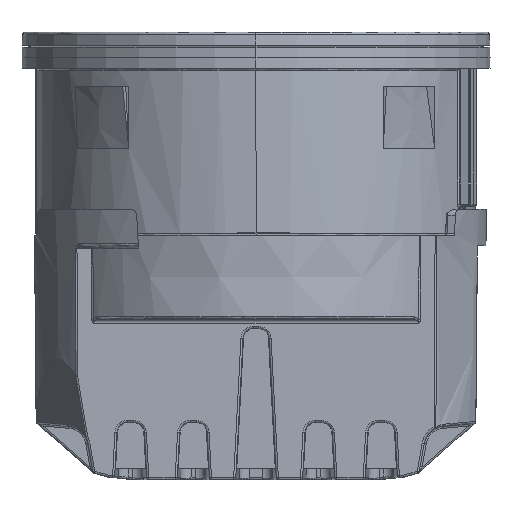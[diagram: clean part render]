
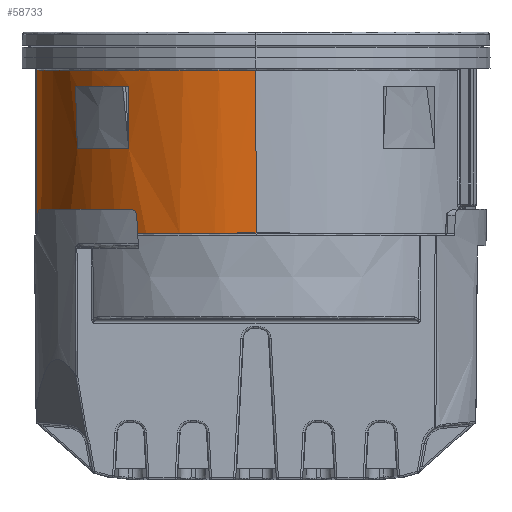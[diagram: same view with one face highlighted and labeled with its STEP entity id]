
A CAD part, left-side view. The second image highlights one B-rep face of the part: STEP entity #58733.
In plain terms, the highlighted cylindrical face has radius 21 mm (diameter 42 mm), a partial arc.
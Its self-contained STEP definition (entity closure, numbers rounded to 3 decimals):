
#384 = VERTEX_POINT ( 'NONE', #40165 ) ;
#591 = LINE ( 'NONE', #16662, #31578 ) ;
#1465 = CARTESIAN_POINT ( 'NONE',  ( -20.627, 3.942, 23.638 ) ) ;
#1895 = DIRECTION ( 'NONE',  ( 0., 0., -1. ) ) ;
#2233 = DIRECTION ( 'NONE',  ( 0., 0., -1. ) ) ;
#3307 = EDGE_CURVE ( 'NONE', #28913, #55764, #25191, .T. ) ;
#3571 = CARTESIAN_POINT ( 'NONE',  ( -13.13, 16.431, 37.684 ) ) ;
#3758 = VERTEX_POINT ( 'NONE', #52821 ) ;
#3960 = EDGE_LOOP ( 'NONE', ( #49822, #58065, #43174, #47109, #60432, #19689, #9753 ) ) ;
#4707 = ORIENTED_EDGE ( 'NONE', *, *, #24967, .T. ) ;
#5054 = DIRECTION ( 'NONE',  ( 0., 0., 1. ) ) ;
#6030 = EDGE_CURVE ( 'NONE', #384, #52624, #56663, .T. ) ;
#6274 = CARTESIAN_POINT ( 'NONE',  ( -20.627, 3.942, 23.61 ) ) ;
#6540 = CARTESIAN_POINT ( 'NONE',  ( -21., 0., 23.644 ) ) ;
#6813 = CARTESIAN_POINT ( 'NONE',  ( -17.107, 12.18, 39.4 ) ) ;
#8393 = CARTESIAN_POINT ( 'NONE',  ( -20.796, 2.922, 23.64 ) ) ;
#8655 = VERTEX_POINT ( 'NONE', #22903 ) ;
#8929 = CARTESIAN_POINT ( 'NONE',  ( 0., 0., 23.6 ) ) ;
#9409 = CARTESIAN_POINT ( 'NONE',  ( -16.41, 13.116, 37.685 ) ) ;
#9753 = ORIENTED_EDGE ( 'NONE', *, *, #6030, .T. ) ;
#10593 = AXIS2_PLACEMENT_3D ( 'NONE', #61631, #56179, #67478 ) ;
#10594 = EDGE_CURVE ( 'NONE', #17298, #3758, #61430, .T. ) ;
#12020 = CARTESIAN_POINT ( 'NONE',  ( -21., 0.978, 23.643 ) ) ;
#12487 = LINE ( 'NONE', #6274, #55553 ) ;
#12708 = CARTESIAN_POINT ( 'NONE',  ( -21., 0., 39.2 ) ) ;
#13667 = CIRCLE ( 'NONE', #63600, 21. ) ;
#13820 = CARTESIAN_POINT ( 'NONE',  ( -16.768, 12.656, 37.685 ) ) ;
#14178 = CARTESIAN_POINT ( 'NONE',  ( -15.657, 14.007, 37.685 ) ) ;
#14721 = EDGE_CURVE ( 'NONE', #21341, #42015, #63700, .T. ) ;
#15453 = CARTESIAN_POINT ( 'NONE',  ( -17.107, 12.18, 31.7 ) ) ;
#15656 = CYLINDRICAL_SURFACE ( 'NONE', #61401, 21. ) ;
#16662 = CARTESIAN_POINT ( 'NONE',  ( -12.18, 17.107, 23.6 ) ) ;
#17063 = CARTESIAN_POINT ( 'NONE',  ( -20.796, 2.922, 23.64 ) ) ;
#17298 = VERTEX_POINT ( 'NONE', #20879 ) ;
#17513 = CARTESIAN_POINT ( 'NONE',  ( -17.107, 12.18, 31.7 ) ) ;
#18355 = CARTESIAN_POINT ( 'NONE',  ( 6.054, 20.108, 39.2 ) ) ;
#18360 = VECTOR ( 'NONE', #2233, 1000. ) ;
#19081 = B_SPLINE_CURVE_WITH_KNOTS ( 'NONE', 3,
 ( #17513, #39680, #61839, #29117 ),
 .UNSPECIFIED., .F., .F.,
 ( 4, 4 ),
 ( 0., 1. ),
 .UNSPECIFIED. ) ;
#19673 = FACE_BOUND ( 'NONE', #37151, .T. ) ;
#19689 = ORIENTED_EDGE ( 'NONE', *, *, #23367, .F. ) ;
#19983 = CARTESIAN_POINT ( 'NONE',  ( -12.18, 17.107, 37.686 ) ) ;
#20879 = CARTESIAN_POINT ( 'NONE',  ( -17.107, 12.18, 37.685 ) ) ;
#21341 = VERTEX_POINT ( 'NONE', #62278 ) ;
#22237 = ORIENTED_EDGE ( 'NONE', *, *, #10594, .F. ) ;
#22903 = CARTESIAN_POINT ( 'NONE',  ( -20.627, 3.942, 23.6 ) ) ;
#22965 = CARTESIAN_POINT ( 'NONE',  ( -20.796, 2.922, 23.64 ) ) ;
#23367 = EDGE_CURVE ( 'NONE', #384, #8655, #12487, .T. ) ;
#23582 = LINE ( 'NONE', #6813, #25536 ) ;
#23852 = CARTESIAN_POINT ( 'NONE',  ( 6.054, 20.108, 23.6 ) ) ;
#24967 = EDGE_CURVE ( 'NONE', #57117, #60976, #19081, .T. ) ;
#25191 = LINE ( 'NONE', #69905, #18360 ) ;
#25536 = VECTOR ( 'NONE', #45728, 1000. ) ;
#27918 = DIRECTION ( 'NONE',  ( 0., 0., 1. ) ) ;
#28562 = EDGE_CURVE ( 'NONE', #55764, #8655, #13667, .T. ) ;
#28744 = CARTESIAN_POINT ( 'NONE',  ( -20.932, 1.955, 23.642 ) ) ;
#28913 = VERTEX_POINT ( 'NONE', #18355 ) ;
#29117 = CARTESIAN_POINT ( 'NONE',  ( -12.181, 17.108, 31.7 ) ) ;
#29508 = CARTESIAN_POINT ( 'NONE',  ( -21., 0., 23.6 ) ) ;
#31578 = VECTOR ( 'NONE', #27918, 1000. ) ;
#32211 = DIRECTION ( 'NONE',  ( 0., 0., 1. ) ) ;
#36796 = EDGE_CURVE ( 'NONE', #60976, #3758, #591, .T. ) ;
#37151 = EDGE_LOOP ( 'NONE', ( #22237, #57875, #4707, #56453 ) ) ;
#38247 = EDGE_CURVE ( 'NONE', #42015, #28913, #64025, .T. ) ;
#39680 = CARTESIAN_POINT ( 'NONE',  ( -15.754, 14.081, 31.7 ) ) ;
#40165 = CARTESIAN_POINT ( 'NONE',  ( -20.627, 3.942, 23.638 ) ) ;
#40285 = VECTOR ( 'NONE', #51310, 1000. ) ;
#41817 = CARTESIAN_POINT ( 'NONE',  ( -17.107, 12.18, 37.685 ) ) ;
#42015 = VERTEX_POINT ( 'NONE', #12708 ) ;
#43174 = ORIENTED_EDGE ( 'NONE', *, *, #38247, .T. ) ;
#45728 = DIRECTION ( 'NONE',  ( 0., 0., 1. ) ) ;
#46945 = CARTESIAN_POINT ( 'NONE',  ( -20.748, 3.263, 23.64 ) ) ;
#47109 = ORIENTED_EDGE ( 'NONE', *, *, #3307, .T. ) ;
#48311 = CARTESIAN_POINT ( 'NONE',  ( -15.262, 14.437, 37.684 ) ) ;
#49822 = ORIENTED_EDGE ( 'NONE', *, *, #57543, .F. ) ;
#51310 = DIRECTION ( 'NONE',  ( 0., 0., 1. ) ) ;
#52624 = VERTEX_POINT ( 'NONE', #17063 ) ;
#52821 = CARTESIAN_POINT ( 'NONE',  ( -12.18, 17.107, 37.686 ) ) ;
#54372 = DIRECTION ( 'NONE',  ( 1., 0., 0. ) ) ;
#54889 = CARTESIAN_POINT ( 'NONE',  ( 0., 0., 23.6 ) ) ;
#55234 = FACE_OUTER_BOUND ( 'NONE', #3960, .T. ) ;
#55553 = VECTOR ( 'NONE', #1895, 1000. ) ;
#55764 = VERTEX_POINT ( 'NONE', #23852 ) ;
#56179 = DIRECTION ( 'NONE',  ( 0., 0., -1. ) ) ;
#56377 = EDGE_CURVE ( 'NONE', #57117, #17298, #23582, .T. ) ;
#56453 = ORIENTED_EDGE ( 'NONE', *, *, #36796, .T. ) ;
#56663 = B_SPLINE_CURVE_WITH_KNOTS ( 'NONE', 3,
 ( #1465, #63695, #46945, #8393 ),
 .UNSPECIFIED., .F., .F.,
 ( 4, 4 ),
 ( 0., 1. ),
 .UNSPECIFIED. ) ;
#57101 = B_SPLINE_CURVE_WITH_KNOTS ( 'NONE', 3,
 ( #6540, #12020, #28744, #22965 ),
 .UNSPECIFIED., .F., .F.,
 ( 4, 4 ),
 ( 0.003, 0.006 ),
 .UNSPECIFIED. ) ;
#57117 = VERTEX_POINT ( 'NONE', #15453 ) ;
#57543 = EDGE_CURVE ( 'NONE', #21341, #52624, #57101, .T. ) ;
#57875 = ORIENTED_EDGE ( 'NONE', *, *, #56377, .F. ) ;
#58065 = ORIENTED_EDGE ( 'NONE', *, *, #14721, .T. ) ;
#58733 = ADVANCED_FACE ( 'NONE', ( #19673, #55234 ), #15656, .T. ) ;
#59353 = CARTESIAN_POINT ( 'NONE',  ( -12.181, 17.108, 31.7 ) ) ;
#59621 = DIRECTION ( 'NONE',  ( 1., 0., 0. ) ) ;
#60432 = ORIENTED_EDGE ( 'NONE', *, *, #28562, .T. ) ;
#60976 = VERTEX_POINT ( 'NONE', #59353 ) ;
#61401 = AXIS2_PLACEMENT_3D ( 'NONE', #54889, #5054, #59621 ) ;
#61430 = B_SPLINE_CURVE_WITH_KNOTS ( 'NONE', 3,
 ( #41817, #13820, #9409, #14178, #48311, #70525, #3571, #19983 ),
 .UNSPECIFIED., .F., .F.,
 ( 4, 2, 2, 4 ),
 ( 0.003, 0.005, 0.006, 0.01 ),
 .UNSPECIFIED. ) ;
#61631 = CARTESIAN_POINT ( 'NONE',  ( 0., 0., 39.2 ) ) ;
#61839 = CARTESIAN_POINT ( 'NONE',  ( -14.081, 15.754, 31.7 ) ) ;
#62278 = CARTESIAN_POINT ( 'NONE',  ( -21., 0., 23.644 ) ) ;
#63600 = AXIS2_PLACEMENT_3D ( 'NONE', #8929, #32211, #54372 ) ;
#63695 = CARTESIAN_POINT ( 'NONE',  ( -20.691, 3.603, 23.639 ) ) ;
#63700 = LINE ( 'NONE', #29508, #40285 ) ;
#64025 = CIRCLE ( 'NONE', #10593, 21. ) ;
#67478 = DIRECTION ( 'NONE',  ( 1., 0., 0. ) ) ;
#69905 = CARTESIAN_POINT ( 'NONE',  ( 6.054, 20.108, 23.6 ) ) ;
#70525 = CARTESIAN_POINT ( 'NONE',  ( -14.024, 15.674, 37.684 ) ) ;
